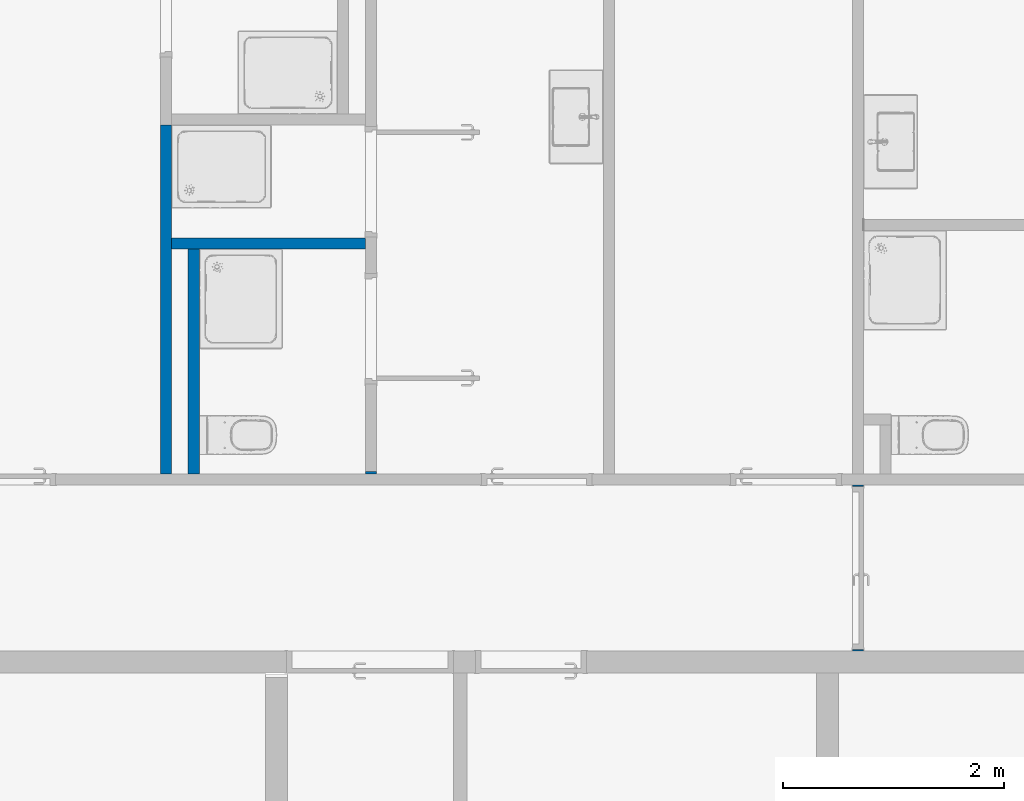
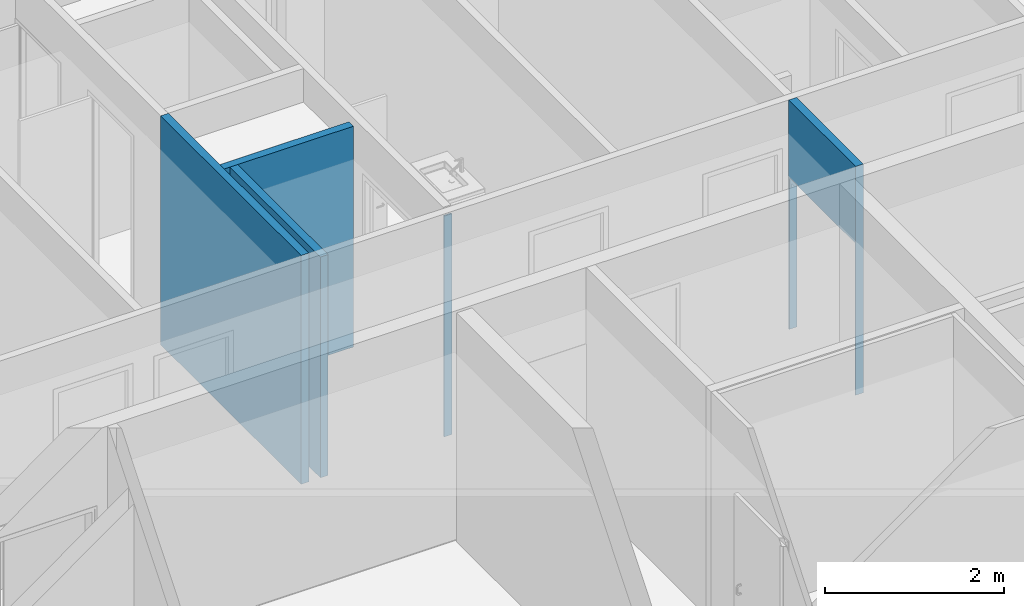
# One storey, part 103 of 240: 5 walls, 1 opening.
"""IFC2X3 building model written with IfcOpenShell, lengths in centimetres."""

from ifc_helpers import new_model, entity, si_unit, converted_unit, derived_unit, direction, frame, frame_2d, origin, place, context, subcontext, project, spatial, rectangle, extrude, material, layer, layer_set, layer_usage, type_object, element, save


model = new_model("IFC2X3")

# Units and contexts
model_context = context("Model", 3, precision=0.001, world=origin(), true_north=direction((6.12303176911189e-17, 1.0)))
body_context = subcontext(model_context, "Body", "Model", "MODEL_VIEW")
ifc_project = project(units=[si_unit("LENGTHUNIT", "METRE", prefix="CENTI"), si_unit("AREAUNIT", "SQUARE_METRE"), si_unit("VOLUMEUNIT", "CUBIC_METRE"), converted_unit("PLANEANGLEUNIT", "DEGREE", entity("IfcRatioMeasure", 0.0174532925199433), si_unit("PLANEANGLEUNIT", "RADIAN"), dimensions=[0, 0, 0, 0, 0, 0, 0]), si_unit("MASSUNIT", "GRAM", prefix="KILO"), derived_unit("MASSDENSITYUNIT", [(si_unit("MASSUNIT", "GRAM", prefix="KILO"), 1), (si_unit("LENGTHUNIT", "METRE"), -3)]), si_unit("TIMEUNIT", "SECOND"), si_unit("FREQUENCYUNIT", "HERTZ"), si_unit("THERMODYNAMICTEMPERATUREUNIT", "DEGREE_CELSIUS"), derived_unit("THERMALTRANSMITTANCEUNIT", [(si_unit("MASSUNIT", "GRAM", prefix="KILO"), 1), (si_unit("THERMODYNAMICTEMPERATUREUNIT", "KELVIN"), -1), (si_unit("TIMEUNIT", "SECOND"), -3)]), derived_unit("VOLUMETRICFLOWRATEUNIT", [(si_unit("LENGTHUNIT", "METRE"), 3), (si_unit("TIMEUNIT", "SECOND"), -1)]), si_unit("ELECTRICCURRENTUNIT", "AMPERE"), si_unit("ELECTRICVOLTAGEUNIT", "VOLT"), si_unit("POWERUNIT", "WATT"), si_unit("FORCEUNIT", "NEWTON", prefix="KILO"), si_unit("ILLUMINANCEUNIT", "LUX"), si_unit("LUMINOUSFLUXUNIT", "LUMEN"), si_unit("LUMINOUSINTENSITYUNIT", "CANDELA"), derived_unit("USERDEFINED", [(si_unit("MASSUNIT", "GRAM", prefix="KILO"), -1), (si_unit("LENGTHUNIT", "METRE"), -2), (si_unit("TIMEUNIT", "SECOND"), 3), (si_unit("LUMINOUSFLUXUNIT", "LUMEN"), 1)]), derived_unit("LINEARVELOCITYUNIT", [(si_unit("LENGTHUNIT", "METRE"), 1), (si_unit("TIMEUNIT", "SECOND"), -1)]), si_unit("PRESSUREUNIT", "PASCAL"), derived_unit("USERDEFINED", [(si_unit("LENGTHUNIT", "METRE"), -2), (si_unit("MASSUNIT", "GRAM", prefix="KILO"), 1), (si_unit("TIMEUNIT", "SECOND"), -2)])], contexts=[model_context])

# Site, building, storey
site_placement = place(None, frame((-2781.94577612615, 7442.24238424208, 0.0)))
site = spatial("IfcSite", under=ifc_project, at=site_placement, Name="Default", CompositionType="ELEMENT")
building_placement = place(site_placement, origin())
building = spatial("IfcBuilding", under=site, at=building_placement, CompositionType="ELEMENT")
storey_placement = place(building_placement, origin())
storey = spatial("IfcBuildingStorey", under=building, at=storey_placement, Name="N00 - COO", CompositionType="ELEMENT", Elevation=0.0)

# Walls
ifc_material_1 = material(Name="01 - Enduit/Plâtre")
ifc_layer_1 = layer(ifc_material_1, 1.3)
ifc_material_2 = material(Name="00 - Isolant")
ifc_layer_2 = layer(ifc_material_2, 7.4)
ifc_layer_3 = layer(ifc_material_1, 1.3)
ifc_layer_set = layer_set([ifc_layer_1, ifc_layer_2, ifc_layer_3], Name="Mur de base:06 - cloisons - Ba13 10cm")
ifc_layer_usage_1 = layer_usage(ifc_layer_set, "AXIS2", "NEGATIVE", 5.0)
wall_type = type_object("IfcWallType", Name="Mur de base:06 - cloisons - Ba13 10cm", PredefinedType="STANDARD", material=ifc_layer_set)
wall_1_placement = place(building_placement, frame((-10259.4998776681, -1547.0, 0.0), z_axis=(0.0, 0.0, 1.0), x_axis=(0.0, -1.0, 0.0)))
element("IfcWallStandardCase", 1, at=wall_1_placement, inside=storey, type_object=wall_type, material=ifc_layer_usage_1, Name="Mur de base:06 - cloisons - Ba13 10cm", ObjectType="Mur de base:06 - cloisons - Ba13 10cm", context=body_context, shape_type="SweptSolid", body=[
    extrude(rectangle(XDim=203.0, YDim=10.0000000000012, at=frame_2d((101.5, 0.0), x_axis=(-1.0, 0.0))), origin(), (0.0, 0.0, 1.0), 302.0),
])
ifc_layer_usage_2 = layer_usage(ifc_layer_set, "AXIS2", "NEGATIVE", 5.0)
wall_2_placement = place(building_placement, frame((-10279.4998776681, -1542.0, 0.0)))
element("IfcWallStandardCase", 2, at=wall_2_placement, inside=storey, type_object=wall_type, material=ifc_layer_usage_2, Name="Mur de base:06 - cloisons - Ba13 10cm", ObjectType="Mur de base:06 - cloisons - Ba13 10cm", context=body_context, shape_type="SweptSolid", body=[
    extrude(rectangle(XDim=174.999999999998, YDim=9.99999999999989, at=frame_2d((87.4999999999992, 6.43929354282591e-14), x_axis=(-1.0, 0.0))), origin(), (0.0, 0.0, 1.0), 302.0),
])

# Wall, opening
ifc_layer_usage_3 = layer_usage(ifc_layer_set, "AXIS2", "NEGATIVE", 5.0)
wall_3_placement = place(building_placement, frame((-9659.49987766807, -1760.0, 0.0), z_axis=(0.0, 0.0, 1.0), x_axis=(0.0, -1.0, 0.0)))
wall_3 = element("IfcWallStandardCase", 3, at=wall_3_placement, inside=storey, type_object=wall_type, material=ifc_layer_usage_3, Name="Mur de base:06 - cloisons - Ba13 10cm", ObjectType="Mur de base:06 - cloisons - Ba13 10cm", context=body_context, shape_type="SweptSolid", body=[
    extrude(rectangle(XDim=150.079033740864, YDim=10.0000000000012, at=frame_2d((75.0395168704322, 0.0), x_axis=(-1.0, 0.0))), origin(), (0.0, 0.0, 1.0), 313.0),
])
opening_placement = place(wall_3_placement, frame((1.57903364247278, -5.0, 0.0)))
element("IfcOpeningElement", 4, at=opening_placement, cuts=wall_3, Name="Int. Double:PP (1.40m x 2.04m):1", ObjectType="Opening", context=body_context, shape_type="SweptSolid", body=[
    extrude(rectangle(XDim=207.500000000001, YDim=147.0, at=frame_2d((103.750000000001, 73.5000000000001), x_axis=(1.0, 0.0))), frame((0.0, 0.0, 0.0), z_axis=(0.0, 1.0, 0.0), x_axis=(0.0, 0.0, 1.0)), (0.0, 0.0, 1.0), 10.0),
])

# Walls
ifc_layer_usage_4 = layer_usage(ifc_layer_set, "AXIS2", "NEGATIVE", 5.0)
wall_4_placement = place(building_placement, frame((-10099.4998776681, -1748.0, 0.0), z_axis=(0.0, 0.0, 1.0), x_axis=(0.0, -1.0, 0.0)))
element("IfcWallStandardCase", 5, at=wall_4_placement, inside=storey, type_object=wall_type, material=ifc_layer_usage_4, Name="Mur de base:06 - cloisons - Ba13 10cm", ObjectType="Mur de base:06 - cloisons - Ba13 10cm", context=body_context, shape_type="SweptSolid", body=[
    extrude(rectangle(XDim=1.99999999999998, YDim=10.0000000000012, at=frame_2d((0.999999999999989, 2.66453525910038e-15), x_axis=(-1.0, 0.0))), origin(), (0.0, 0.0, 1.0), 302.0),
])
ifc_layer_usage_5 = layer_usage(ifc_layer_set, "AXIS2", "POSITIVE", -5.0)
wall_5_placement = place(building_placement, frame((-10284.4998776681, -1435.0, 0.0), z_axis=(0.0, 0.0, 1.0), x_axis=(0.0, -1.0, 0.0)))
element("IfcWallStandardCase", 6, at=wall_5_placement, inside=storey, type_object=wall_type, material=ifc_layer_usage_5, Name="Mur de base:06 - cloisons - Ba13 10cm", ObjectType="Mur de base:06 - cloisons - Ba13 10cm", context=body_context, shape_type="SweptSolid", body=[
    extrude(rectangle(XDim=315.0, YDim=10.0000000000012, at=frame_2d((157.5, 0.0), x_axis=(-1.0, 0.0))), origin(), (0.0, 0.0, 1.0), 313.0),
])

save(model, "model.ifc")
